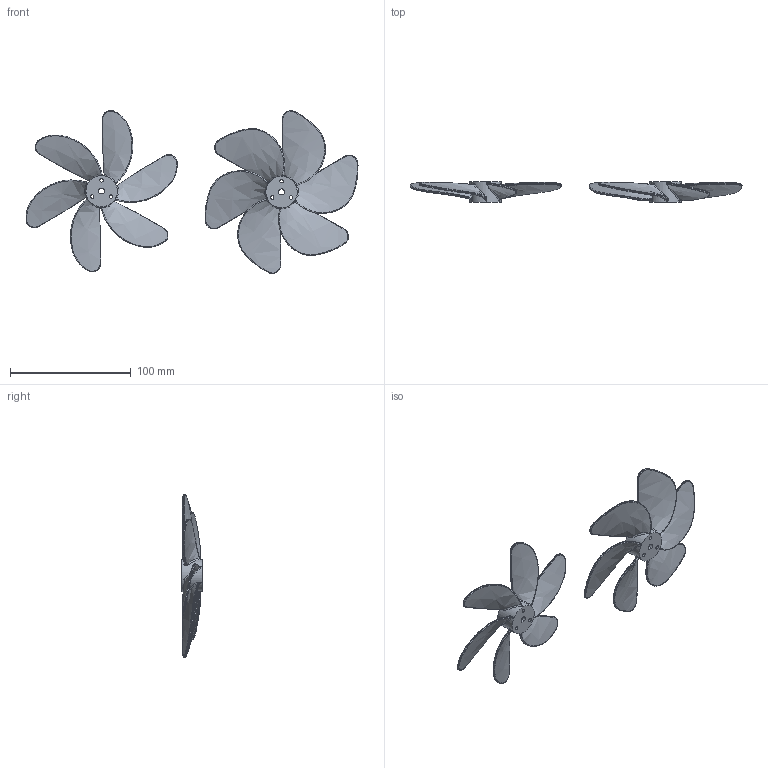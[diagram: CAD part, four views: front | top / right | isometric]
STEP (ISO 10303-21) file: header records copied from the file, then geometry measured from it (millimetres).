
FILE_DESCRIPTION(/* description */ (''),/* implementation_level */ '2;1');
FILE_NAME(/* name */ 'Assieme_ventola3.stp',/* time_stamp */ '2025-01-19T11:22:39+01:00',/* author */ ('R5800u'),/* organization */ (''),/* preprocessor_version */ 'ST-DEVELOPER v20',/* originating_system */ 'Autodesk Inventor 2025',/* authorisation */ '');
FILE_SCHEMA (('AUTOMOTIVE_DESIGN { 1 0 10303 214 3 1 1 }'));
Products named in the file (3): Assieme1; fan2b; fan_6p
Assembly tree (2 placements, depth 2):
  Assieme1
    fan2b
    fan_6p
Bounding box: 274.96 x 17 x 134.95 mm (x, y, z)
Volume: 43815 mm3; surface area: 43857.6 mm2
Topology: 2 solids, 2 shells, 329 faces, 1656 edges, 1336 vertices
Faces by surface type: bspline 240, cylinder 71, plane 18
Full cylindrical faces by diameter (mm): 2.9 x6, 26 x2
Entity records: 48244 total; most frequent: CARTESIAN_POINT 37786, ORIENTED_EDGE 3312, EDGE_CURVE 1656, B_SPLINE_CURVE_WITH_KNOTS 1372, VERTEX_POINT 1336, DIRECTION 654, EDGE_LOOP 350, FACE_OUTER_BOUND 329
